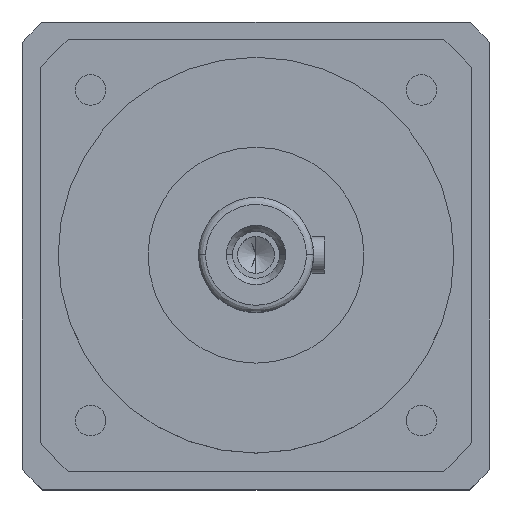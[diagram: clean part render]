
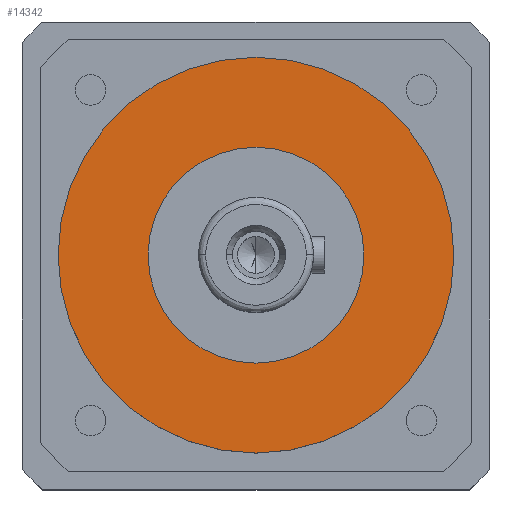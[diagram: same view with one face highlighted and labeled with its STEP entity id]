
A CAD part, top view. The second image highlights one B-rep face of the part: STEP entity #14342.
In plain terms, the highlighted planar face has unit normal (0, 0, 1).
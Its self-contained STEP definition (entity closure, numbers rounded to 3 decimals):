
#234 = VERTEX_POINT ( 'NONE', #11296 ) ;
#1397 = DIRECTION ( 'NONE',  ( 1., 0., 0. ) ) ;
#1842 = AXIS2_PLACEMENT_3D ( 'NONE', #37516, #24030, #3785 ) ;
#3093 = DIRECTION ( 'NONE',  ( 1., 0., 0. ) ) ;
#3289 = EDGE_LOOP ( 'NONE', ( #13110, #12454 ) ) ;
#3407 = AXIS2_PLACEMENT_3D ( 'NONE', #41918, #21668, #1397 ) ;
#3496 = AXIS2_PLACEMENT_3D ( 'NONE', #39641, #19381, #43059 ) ;
#3700 = EDGE_CURVE ( 'NONE', #35676, #234, #29102, .T. ) ;
#3785 = DIRECTION ( 'NONE',  ( -1., 0., 0. ) ) ;
#6317 = FACE_BOUND ( 'NONE', #3289, .T. ) ;
#6634 = CIRCLE ( 'NONE', #20310, 55. ) ;
#8518 = EDGE_LOOP ( 'NONE', ( #18640, #26712 ) ) ;
#11296 = CARTESIAN_POINT ( 'NONE',  ( 30., 0., -52. ) ) ;
#12031 = DIRECTION ( 'NONE',  ( 0., 0., 1. ) ) ;
#12454 = ORIENTED_EDGE ( 'NONE', *, *, #3700, .F. ) ;
#13110 = ORIENTED_EDGE ( 'NONE', *, *, #31202, .F. ) ;
#13678 = EDGE_CURVE ( 'NONE', #36166, #27315, #37057, .T. ) ;
#14342 = ADVANCED_FACE ( 'NONE', ( #37015, #6317 ), #40469, .F. ) ;
#18640 = ORIENTED_EDGE ( 'NONE', *, *, #13678, .F. ) ;
#19381 = DIRECTION ( 'NONE',  ( 0., 0., -1. ) ) ;
#20310 = AXIS2_PLACEMENT_3D ( 'NONE', #43637, #23345, #3093 ) ;
#20816 = CARTESIAN_POINT ( 'NONE',  ( 55., 0., -52. ) ) ;
#21038 = EDGE_CURVE ( 'NONE', #27315, #36166, #6634, .T. ) ;
#21668 = DIRECTION ( 'NONE',  ( 0., 0., 1. ) ) ;
#22656 = CIRCLE ( 'NONE', #3407, 30. ) ;
#23345 = DIRECTION ( 'NONE',  ( 0., 0., -1. ) ) ;
#24030 = DIRECTION ( 'NONE',  ( 0., 0., -1. ) ) ;
#24817 = AXIS2_PLACEMENT_3D ( 'NONE', #32294, #12031, #35684 ) ;
#26712 = ORIENTED_EDGE ( 'NONE', *, *, #21038, .F. ) ;
#27315 = VERTEX_POINT ( 'NONE', #37161 ) ;
#29102 = CIRCLE ( 'NONE', #24817, 30. ) ;
#31202 = EDGE_CURVE ( 'NONE', #234, #35676, #22656, .T. ) ;
#32294 = CARTESIAN_POINT ( 'NONE',  ( 0., 0., -52. ) ) ;
#33169 = CARTESIAN_POINT ( 'NONE',  ( -30., 0., -52. ) ) ;
#35676 = VERTEX_POINT ( 'NONE', #33169 ) ;
#35684 = DIRECTION ( 'NONE',  ( 1., 0., 0. ) ) ;
#36166 = VERTEX_POINT ( 'NONE', #20816 ) ;
#37015 = FACE_OUTER_BOUND ( 'NONE', #8518, .T. ) ;
#37057 = CIRCLE ( 'NONE', #3496, 55. ) ;
#37161 = CARTESIAN_POINT ( 'NONE',  ( -55., 0., -52. ) ) ;
#37516 = CARTESIAN_POINT ( 'NONE',  ( 0., 30., -52. ) ) ;
#39641 = CARTESIAN_POINT ( 'NONE',  ( 0., 0., -52. ) ) ;
#40469 = PLANE ( 'NONE',  #1842 ) ;
#41918 = CARTESIAN_POINT ( 'NONE',  ( 0., 0., -52. ) ) ;
#43059 = DIRECTION ( 'NONE',  ( 1., 0., 0. ) ) ;
#43637 = CARTESIAN_POINT ( 'NONE',  ( 0., 0., -52. ) ) ;
